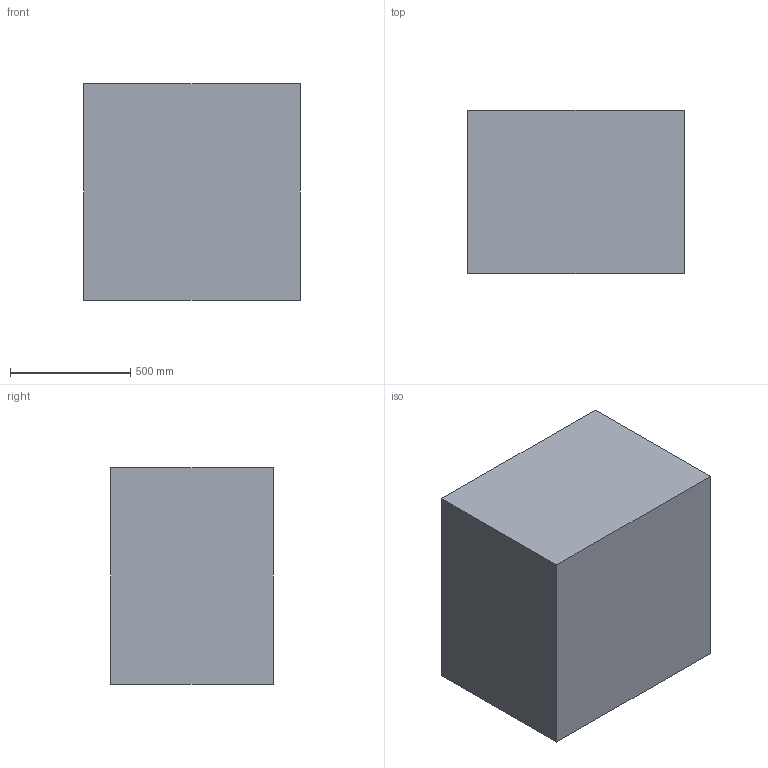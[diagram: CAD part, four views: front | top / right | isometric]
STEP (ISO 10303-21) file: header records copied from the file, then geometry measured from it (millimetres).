
FILE_DESCRIPTION (( 'STEP AP203' ), '1' );
FILE_NAME ('Riser 3.4.STEP', '2019-01-15T13:52:14', ( '' ), ( '' ), 'SwSTEP 2.0', 'SolidWorks 2019', '' );
FILE_SCHEMA (( 'CONFIG_CONTROL_DESIGN' ));
Length unit declared in the file: millimetre
Products named in the file (1): Riser 3.4
Bounding box: 900 x 675 x 900 mm (x, y, z)
Volume: 546750000 mm3; surface area: 4050000 mm2
Topology: 1 solids, 1 shells, 6 faces, 12 edges, 8 vertices
Faces by surface type: plane 6
Entity records: 233 total; most frequent: CARTESIAN_POINT 27, DIRECTION 26, ORIENTED_EDGE 24, VECTOR 12, EDGE_CURVE 12, LINE 12, VERTEX_POINT 8, PERSON_AND_ORGANIZATION 8
